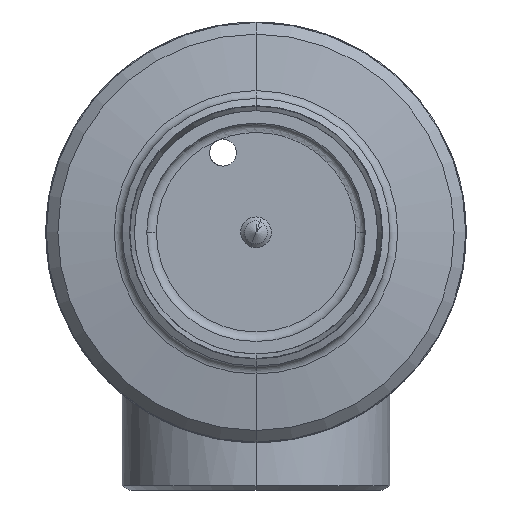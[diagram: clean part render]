
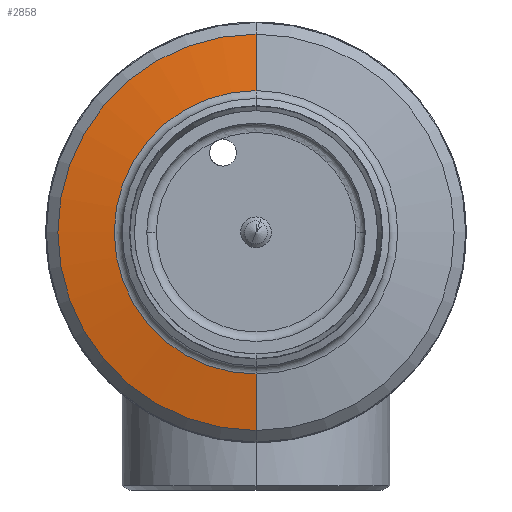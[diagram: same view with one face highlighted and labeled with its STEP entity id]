
A CAD part, front view. The second image highlights one B-rep face of the part: STEP entity #2858.
In plain terms, the highlighted conical face has half-angle 80 degrees and reference radius 109.5 mm.
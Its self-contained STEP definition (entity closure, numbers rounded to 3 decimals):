
#128 = CIRCLE ( 'NONE', #129, 73.982 ) ;
#129 = AXIS2_PLACEMENT_3D ( 'NONE', #130, #131, #132 ) ;
#130 = CARTESIAN_POINT ( 'NONE',  ( 0., -21.763, 0. ) ) ;
#131 = DIRECTION ( 'NONE',  ( 0., 1., 0. ) ) ;
#132 = DIRECTION ( 'NONE',  ( 0., 0., -1. ) ) ;
#180 = EDGE_CURVE ( 'NONE', #2606, #3403, #3989, .T. ) ;
#463 = FACE_OUTER_BOUND ( 'NONE', #2835, .T. ) ;
#464 = CONICAL_SURFACE ( 'NONE', #465, 109.5, 1.396 ) ;
#465 = AXIS2_PLACEMENT_3D ( 'NONE', #466, #467, #468 ) ;
#466 = CARTESIAN_POINT ( 'NONE',  ( 0., -15.5, 0. ) ) ;
#467 = DIRECTION ( 'NONE',  ( 0., 1., 0. ) ) ;
#468 = DIRECTION ( 'NONE',  ( 0., 0., 1. ) ) ;
#1514 = EDGE_CURVE ( 'NONE', #2388, #3424, #4864, .T. ) ;
#2008 = ORIENTED_EDGE ( 'NONE', *, *, #5795, .T. ) ;
#2388 = VERTEX_POINT ( 'NONE', #5843 ) ;
#2606 = VERTEX_POINT ( 'NONE', #6118 ) ;
#2835 = EDGE_LOOP ( 'NONE', ( #4050, #2008, #3493, #3446 ) ) ;
#2858 = ADVANCED_FACE ( 'NONE', ( #463 ), #464, .T. ) ;
#3075 = EDGE_CURVE ( 'NONE', #3403, #3424, #5018, .T. ) ;
#3403 = VERTEX_POINT ( 'NONE', #4162 ) ;
#3424 = VERTEX_POINT ( 'NONE', #4250 ) ;
#3446 = ORIENTED_EDGE ( 'NONE', *, *, #3075, .T. ) ;
#3493 = ORIENTED_EDGE ( 'NONE', *, *, #180, .T. ) ;
#3989 = LINE ( 'NONE', #3990, #3991 ) ;
#3990 = CARTESIAN_POINT ( 'NONE',  ( 0., -15.5, 109.5 ) ) ;
#3991 = VECTOR ( 'NONE', #3992, 1000. ) ;
#3992 = DIRECTION ( 'NONE',  ( 0., 0.174, 0.985 ) ) ;
#4050 = ORIENTED_EDGE ( 'NONE', *, *, #1514, .F. ) ;
#4162 = CARTESIAN_POINT ( 'NONE',  ( 0., -16.57, 103.43 ) ) ;
#4250 = CARTESIAN_POINT ( 'NONE',  ( 0., -16.57, -103.43 ) ) ;
#4864 = LINE ( 'NONE', #4865, #4866 ) ;
#4865 = CARTESIAN_POINT ( 'NONE',  ( 0., -15.5, -109.5 ) ) ;
#4866 = VECTOR ( 'NONE', #4870, 1000. ) ;
#4870 = DIRECTION ( 'NONE',  ( 0., 0.174, -0.985 ) ) ;
#5018 = CIRCLE ( 'NONE', #5019, 103.43 ) ;
#5019 = AXIS2_PLACEMENT_3D ( 'NONE', #5020, #5021, #5022 ) ;
#5020 = CARTESIAN_POINT ( 'NONE',  ( 0., -16.57, 0. ) ) ;
#5021 = DIRECTION ( 'NONE',  ( 0., -1., 0. ) ) ;
#5022 = DIRECTION ( 'NONE',  ( 0., 0., -1. ) ) ;
#5795 = EDGE_CURVE ( 'NONE', #2388, #2606, #128, .T. ) ;
#5843 = CARTESIAN_POINT ( 'NONE',  ( 0., -21.763, -73.982 ) ) ;
#6118 = CARTESIAN_POINT ( 'NONE',  ( 0., -21.763, 73.982 ) ) ;
